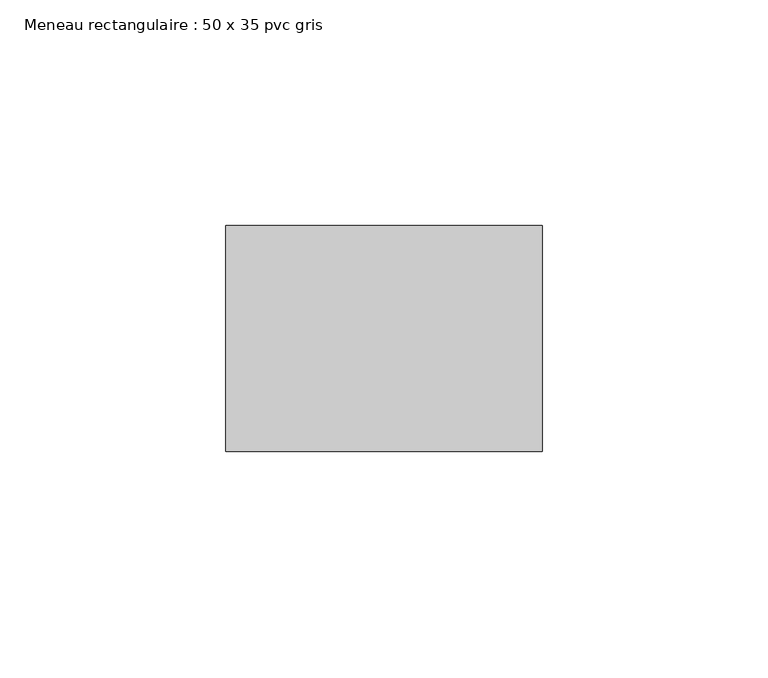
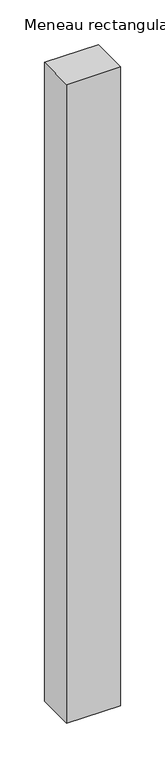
"""IFC4 building model written with IfcOpenShell, lengths in millimetres: member geometry, Meneau rectangulaire : 50 x 35 pvc gris."""

from ifc_helpers import new_model, si_unit, frame, origin, place, context, project, spatial, polyline, outline, extrude, source, transform, mapped, element, save


def meneau_rectangulaire_50_x_35_pvc_gris_769b180d(model_context):
    return source(origin(), model_context, "Body", "SweptSolid", [
        extrude(outline(polyline([(0.0, 0.0), (0.0, -50.0), (-70.0, -50.0), (-70.0, 0.0), (0.0, 0.0)])), frame((0.0, 0.0, -875.0), z_axis=(0.0, 0.0, 1.0), x_axis=(1.0, 0.0, 0.0)), (0.0, 0.0, 1.0), 875.0),
    ])


if __name__ == "__main__":
    model = new_model("IFC4")
    model_context = context("Model", 3, world=origin())
    ifc_project = project(units=[si_unit("LENGTHUNIT", "METRE", prefix="MILLI")], contexts=[model_context])
    site = spatial("IfcSite", under=ifc_project)
    building = spatial("IfcBuilding", under=site)
    placement = place(None, origin())
    meneau_rectangulaire_50_x_35_pvc_gris_shape = meneau_rectangulaire_50_x_35_pvc_gris_769b180d(model_context)
    element("IfcMember", 1, ObjectType="Meneau rectangulaire : 50 x 35 pvc gris", at=placement, inside=building, context=model_context, shape_type="MappedRepresentation", body=[
        mapped(meneau_rectangulaire_50_x_35_pvc_gris_shape, transform((0.0, 0.0, 0.0), x_axis=(1.0, 0.0, 0.0), y_axis=(0.0, 1.0, 0.0), z_axis=(0.0, 0.0, 1.0))),
    ])
    save(model, "model.ifc")
